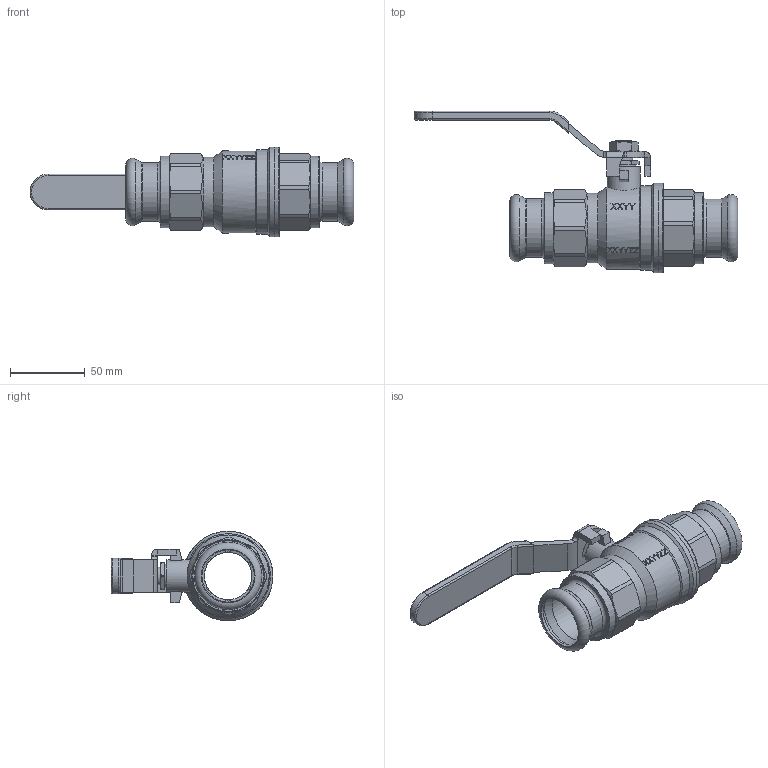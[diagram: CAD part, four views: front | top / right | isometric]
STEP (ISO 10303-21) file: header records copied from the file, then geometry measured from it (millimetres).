
FILE_DESCRIPTION((''),'2;1');
FILE_NAME('P:\Fastrack\53972_CRANE 3D\Press Fit\D171APF\D171A-PF\D171A-PF-35MM\D171A-PF-35MM.stp','2012-01-18T10:15:36',('dcole'),(''),'Autodesk Inventor 2008','Autodesk Inventor 2008','');
FILE_SCHEMA(('AUTOMOTIVE_DESIGN { 1 0 10303 214 1 1 1 1 }'));
Length unit declared in the file: millimetre
Products named in the file (1): D171A-PF-35MM
Bounding box: 216.2 x 108.1 x 59.8 mm (x, y, z)
Volume: 158448.4 mm3; surface area: 79224.9 mm2
Topology: 1 solids, 8 shells, 704 faces, 2119 edges, 1536 vertices
Faces by surface type: plane 354, bspline 128, cylinder 121, cone 79, torus 19, sphere 3
Full cylindrical faces by diameter (mm): 2 x1, 12 x1, 12.1 x2, 12.5 x1, 13 x1, 13.5 x1, 16 x1, 16.3 x1, 16.5 x2, 22 x1, 25 x1, 32 x5, 35 x4, 38.55 x2, 38.952 x2, 39 x2, 41 x2, 42 x4, 42.5 x2, 46.5 x1, 47 x1, 47.6 x2, 50.5 x1, 52 x1, 52.2 x1, 54.8 x1, 56.5 x1, 59.8 x2
Entity records: 36986 total; most frequent: CARTESIAN_POINT 18743, ORIENTED_EDGE 3904, DIRECTION 2975, EDGE_CURVE 1952, VERTEX_POINT 1484, VECTOR 1005, LINE 1005, AXIS2_PLACEMENT_3D 985
